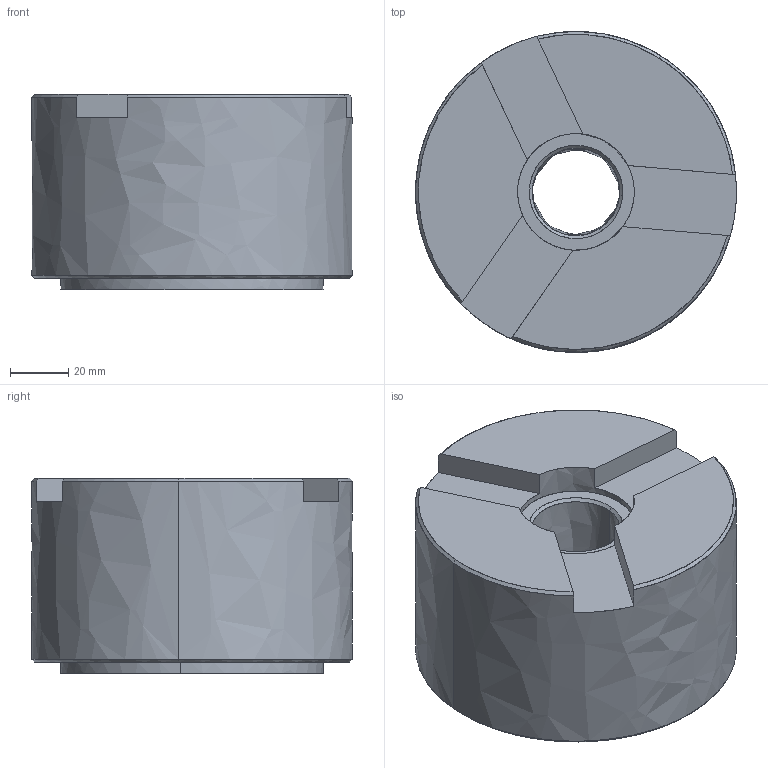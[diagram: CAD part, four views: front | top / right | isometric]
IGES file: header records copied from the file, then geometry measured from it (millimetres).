
Start section: START RECORD GO HERE.
Global section: file name: C.igs; native system: IBM CATIA IGES - CATIA Version 5 Release 12 ; preprocessor: CATIA Version 5 Release 12 ; author: mta; organization: MONTREUIL; date: 20031219.135215; units: millimetre
Bounding box: 109.99 x 109.99 x 67 mm (x, y, z)
Surface area: 47433.2 mm2 (no closed solid volume)
Topology: 0 solids, 0 shells, 31 faces, 590 edges, 590 vertices
Faces by surface type: bspline 16, plane 15
